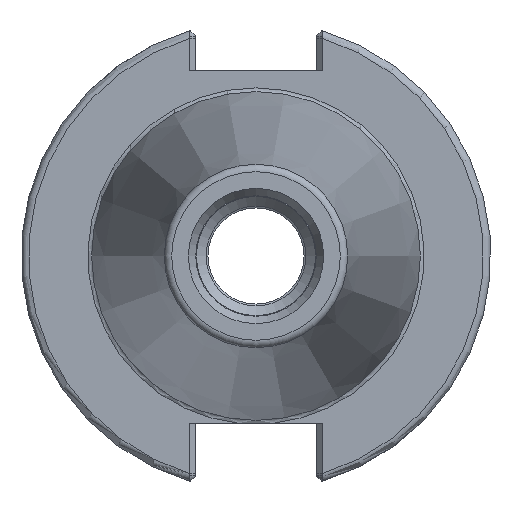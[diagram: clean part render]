
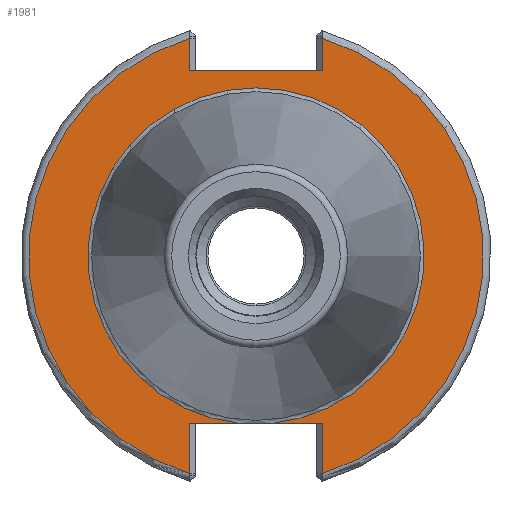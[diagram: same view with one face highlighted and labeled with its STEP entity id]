
A CAD part, left-side view. The second image highlights one B-rep face of the part: STEP entity #1981.
In plain terms, the highlighted planar face has unit normal (-1, 0, 0).
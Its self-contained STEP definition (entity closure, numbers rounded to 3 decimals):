
#126=PLANE('',#2208);
#198=FACE_OUTER_BOUND('',#325,.T.);
#325=EDGE_LOOP('',(#1490,#1491,#1492,#1493,#1494,#1495,#1496,#1497,#1498,
#1499,#1500));
#457=CIRCLE('',#2207,30.75);
#458=CIRCLE('',#2209,22.725);
#459=CIRCLE('',#2210,22.725);
#460=CIRCLE('',#2211,30.75);
#525=LINE('',#3124,#654);
#540=LINE('',#3242,#669);
#542=LINE('',#3320,#671);
#543=LINE('',#3326,#672);
#544=LINE('',#3328,#673);
#545=LINE('',#3331,#674);
#546=LINE('',#3332,#675);
#654=VECTOR('',#2489,10.);
#669=VECTOR('',#2510,10.);
#671=VECTOR('',#2532,10.);
#672=VECTOR('',#2537,10.);
#673=VECTOR('',#2538,10.);
#674=VECTOR('',#2541,10.);
#675=VECTOR('',#2542,10.);
#863=VERTEX_POINT('',#3122);
#864=VERTEX_POINT('',#3123);
#878=VERTEX_POINT('',#3235);
#881=VERTEX_POINT('',#3240);
#888=VERTEX_POINT('',#3299);
#890=VERTEX_POINT('',#3319);
#891=VERTEX_POINT('',#3321);
#892=VERTEX_POINT('',#3323);
#893=VERTEX_POINT('',#3325);
#894=VERTEX_POINT('',#3327);
#895=VERTEX_POINT('',#3329);
#1080=EDGE_CURVE('',#863,#864,#525,.T.);
#1099=EDGE_CURVE('',#881,#878,#540,.T.);
#1111=EDGE_CURVE('',#878,#888,#457,.T.);
#1114=EDGE_CURVE('',#881,#890,#542,.T.);
#1115=EDGE_CURVE('',#890,#891,#458,.T.);
#1116=EDGE_CURVE('',#891,#892,#459,.T.);
#1117=EDGE_CURVE('',#892,#893,#543,.T.);
#1118=EDGE_CURVE('',#894,#893,#544,.T.);
#1119=EDGE_CURVE('',#895,#894,#460,.T.);
#1120=EDGE_CURVE('',#863,#895,#545,.T.);
#1121=EDGE_CURVE('',#888,#864,#546,.T.);
#1490=ORIENTED_EDGE('',*,*,#1099,.F.);
#1491=ORIENTED_EDGE('',*,*,#1114,.T.);
#1492=ORIENTED_EDGE('',*,*,#1115,.T.);
#1493=ORIENTED_EDGE('',*,*,#1116,.T.);
#1494=ORIENTED_EDGE('',*,*,#1117,.T.);
#1495=ORIENTED_EDGE('',*,*,#1118,.F.);
#1496=ORIENTED_EDGE('',*,*,#1119,.F.);
#1497=ORIENTED_EDGE('',*,*,#1120,.F.);
#1498=ORIENTED_EDGE('',*,*,#1080,.T.);
#1499=ORIENTED_EDGE('',*,*,#1121,.F.);
#1500=ORIENTED_EDGE('',*,*,#1111,.F.);
#1981=ADVANCED_FACE('',(#198),#126,.T.);
#2207=AXIS2_PLACEMENT_3D('',#3300,#2528,#2529);
#2208=AXIS2_PLACEMENT_3D('',#3318,#2530,#2531);
#2209=AXIS2_PLACEMENT_3D('',#3322,#2533,#2534);
#2210=AXIS2_PLACEMENT_3D('',#3324,#2535,#2536);
#2211=AXIS2_PLACEMENT_3D('',#3330,#2539,#2540);
#2489=DIRECTION('',(0.,1.,0.));
#2510=DIRECTION('',(0.,0.,-1.));
#2528=DIRECTION('center_axis',(1.,0.,0.));
#2529=DIRECTION('ref_axis',(0.,0.,-1.));
#2530=DIRECTION('center_axis',(-1.,0.,0.));
#2531=DIRECTION('ref_axis',(0.,0.,1.));
#2532=DIRECTION('',(0.,-1.,0.));
#2533=DIRECTION('center_axis',(1.,0.,0.));
#2534=DIRECTION('ref_axis',(0.,0.,-1.));
#2535=DIRECTION('center_axis',(1.,0.,0.));
#2536=DIRECTION('ref_axis',(0.,0.,-1.));
#2537=DIRECTION('',(0.,-1.,0.));
#2538=DIRECTION('',(0.,0.,1.));
#2539=DIRECTION('center_axis',(1.,0.,0.));
#2540=DIRECTION('ref_axis',(0.,0.,-1.));
#2541=DIRECTION('',(0.,0.,1.));
#2542=DIRECTION('',(0.,0.,-1.));
#3122=CARTESIAN_POINT('',(3.175,-8.992,25.019));
#3123=CARTESIAN_POINT('',(3.175,8.992,25.019));
#3124=CARTESIAN_POINT('',(3.175,19.471,25.019));
#3235=CARTESIAN_POINT('',(3.175,8.992,-29.406));
#3240=CARTESIAN_POINT('',(3.175,8.992,-22.606));
#3242=CARTESIAN_POINT('',(3.175,8.992,-11.303));
#3299=CARTESIAN_POINT('',(3.175,8.992,29.406));
#3300=CARTESIAN_POINT('Origin',(3.175,0.,0.));
#3318=CARTESIAN_POINT('Origin',(3.175,30.75,0.));
#3319=CARTESIAN_POINT('',(3.175,2.323,-22.606));
#3320=CARTESIAN_POINT('',(3.175,11.279,-22.606));
#3321=CARTESIAN_POINT('',(3.175,0.,22.725));
#3322=CARTESIAN_POINT('Origin',(3.175,0.,0.));
#3323=CARTESIAN_POINT('',(3.175,-2.323,-22.606));
#3324=CARTESIAN_POINT('Origin',(3.175,0.,0.));
#3325=CARTESIAN_POINT('',(3.175,-8.991,-22.606));
#3326=CARTESIAN_POINT('',(3.175,11.279,-22.606));
#3327=CARTESIAN_POINT('',(3.175,-8.991,-29.406));
#3328=CARTESIAN_POINT('',(3.175,-8.991,-17.303));
#3329=CARTESIAN_POINT('',(3.175,-8.992,29.406));
#3330=CARTESIAN_POINT('Origin',(3.175,0.,0.));
#3331=CARTESIAN_POINT('',(3.175,-8.992,12.51));
#3332=CARTESIAN_POINT('',(3.175,8.992,17.51));
